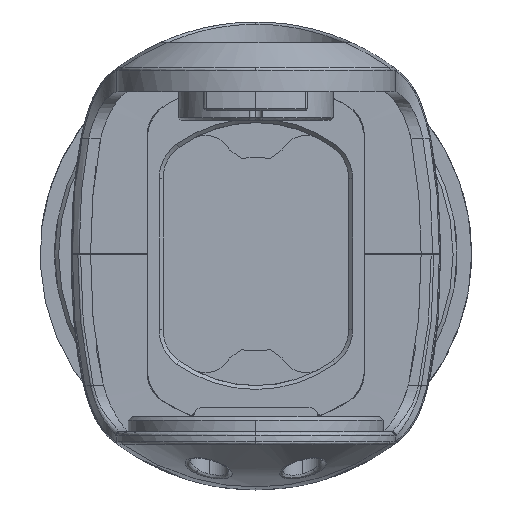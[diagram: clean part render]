
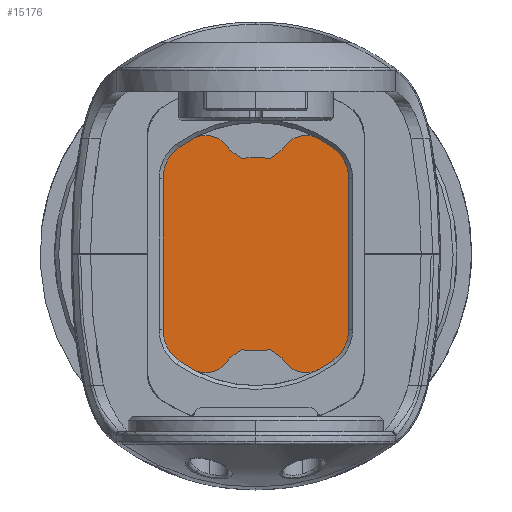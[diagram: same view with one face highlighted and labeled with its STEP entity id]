
A CAD part, front view. The second image highlights one B-rep face of the part: STEP entity #15176.
In plain terms, the highlighted planar face has unit normal (0, -1, 0) as drawn and (0, 0, -1) by its records, which use the part's own axes.
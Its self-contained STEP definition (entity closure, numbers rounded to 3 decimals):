
#1434 = ORIENTED_EDGE ( 'NONE', *, *, #20776, .F. ) ;
#7162 = CIRCLE ( 'NONE', #32664, 19. ) ;
#8182 = DIRECTION ( 'NONE',  ( 1., 0., 0. ) ) ;
#8517 = DIRECTION ( 'NONE',  ( 1., 0., 0. ) ) ;
#11431 = DIRECTION ( 'NONE',  ( 0., 0., 1. ) ) ;
#11463 = EDGE_LOOP ( 'NONE', ( #1434 ) ) ;
#15071 = FACE_OUTER_BOUND ( 'NONE', #11463, .T. ) ;
#15176 = ADVANCED_FACE ( 'NONE', ( #15071 ), #44587, .F. ) ;
#19528 = AXIS2_PLACEMENT_3D ( 'NONE', #40702, #11431, #8517 ) ;
#20776 = EDGE_CURVE ( 'NONE', #29785, #29785, #7162, .T. ) ;
#26082 = CARTESIAN_POINT ( 'NONE',  ( 0., 0., 11. ) ) ;
#29785 = VERTEX_POINT ( 'NONE', #41163 ) ;
#30194 = DIRECTION ( 'NONE',  ( 0., 0., 1. ) ) ;
#32664 = AXIS2_PLACEMENT_3D ( 'NONE', #26082, #30194, #8182 ) ;
#40702 = CARTESIAN_POINT ( 'NONE',  ( 0., 0., 11. ) ) ;
#41163 = CARTESIAN_POINT ( 'NONE',  ( 19., 0., 11. ) ) ;
#44587 = PLANE ( 'NONE',  #19528 ) ;
